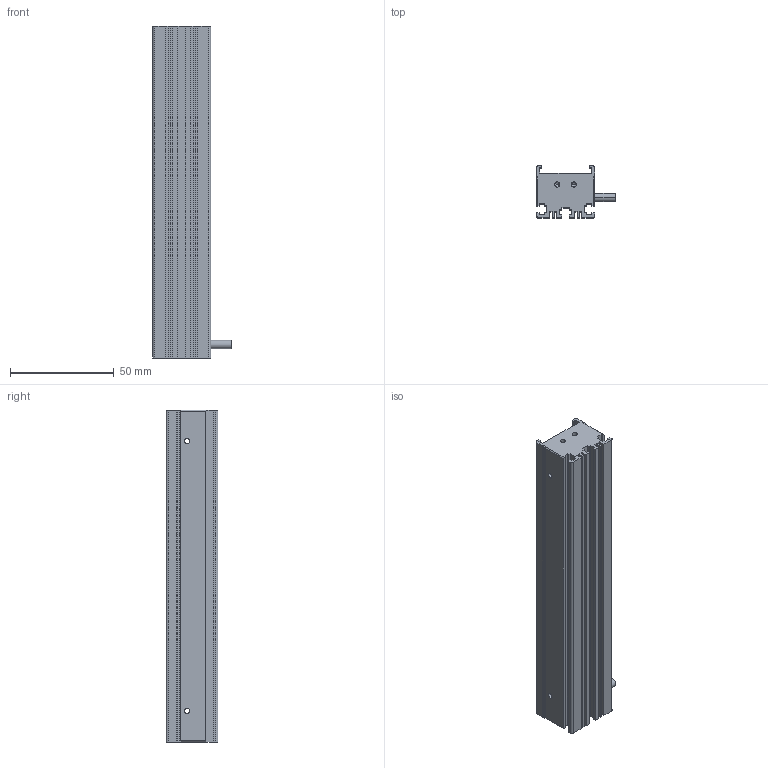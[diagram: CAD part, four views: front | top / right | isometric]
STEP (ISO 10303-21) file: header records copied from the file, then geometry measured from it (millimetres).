
FILE_DESCRIPTION (( 'STEP AP203' ), '1' );
FILE_NAME ('TR16028-W.STEP', '2021-10-14T06:01:46', ( 'Windows 蚚誧' ), ( 'Microsoft' ), 'SwSTEP 2.0', 'SolidWorks 2016', '' );
FILE_SCHEMA (( 'CONFIG_CONTROL_DESIGN' ));
Length unit declared in the file: millimetre
Products named in the file (1): TR16028-W
Bounding box: 38 x 25 x 160 mm (x, y, z)
Volume: 49839.2 mm3; surface area: 41011.6 mm2
Topology: 1 solids, 1 shells, 1104 faces, 2980 edges, 1820 vertices
Faces by surface type: cylinder 582, sphere 280, plane 234, cone 8
Entity records: 30857 total; most frequent: DIRECTION 6122, CARTESIAN_POINT 5057, ORIENTED_EDGE 4824, AXIS2_PLACEMENT_3D 2605, EDGE_CURVE 2412, VERTEX_POINT 1540, CIRCLE 1500, EDGE_LOOP 1342
